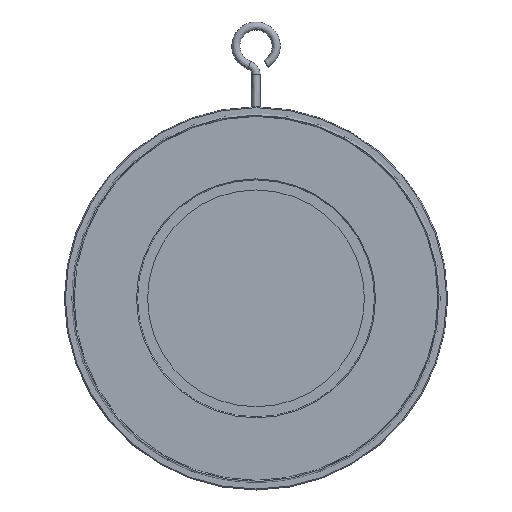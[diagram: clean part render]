
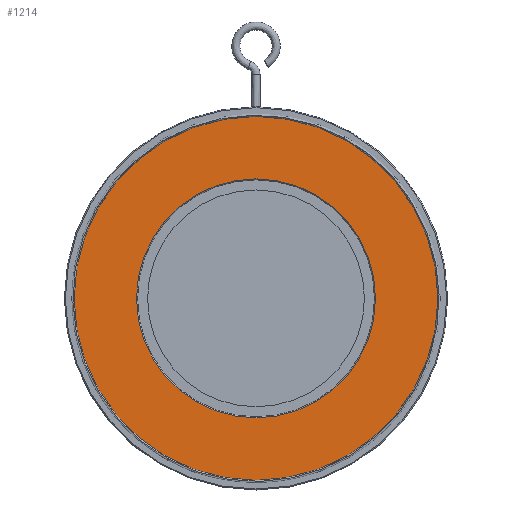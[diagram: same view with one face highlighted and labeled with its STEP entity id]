
A CAD part, left-side view. The second image highlights one B-rep face of the part: STEP entity #1214.
In plain terms, the highlighted planar face has unit normal (-1, 0, 0).
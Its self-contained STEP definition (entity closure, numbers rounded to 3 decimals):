
#80 = FACE_BOUND ( 'NONE', #9049, .T. ) ;
#86 = DIRECTION ( 'NONE',  ( 0., 0., 1. ) ) ;
#248 = CARTESIAN_POINT ( 'NONE',  ( -19., 0., 0. ) ) ;
#347 = DIRECTION ( 'NONE',  ( 0., 0., 1. ) ) ;
#720 = DIRECTION ( 'NONE',  ( 1., 0., 0. ) ) ;
#801 = VERTEX_POINT ( 'NONE', #10663 ) ;
#826 = CIRCLE ( 'NONE', #9298, 180.353 ) ;
#841 = CIRCLE ( 'NONE', #6164, 180.353 ) ;
#865 = CARTESIAN_POINT ( 'NONE',  ( -19., 0., -180.353 ) ) ;
#1116 = ORIENTED_EDGE ( 'NONE', *, *, #10377, .F. ) ;
#1214 = ADVANCED_FACE ( 'NONE', ( #80, #10686 ), #4341, .F. ) ;
#1418 = EDGE_CURVE ( 'NONE', #10479, #10408, #7913, .T. ) ;
#2856 = EDGE_CURVE ( 'NONE', #10408, #10479, #8030, .T. ) ;
#3586 = DIRECTION ( 'NONE',  ( 1., 0., 0. ) ) ;
#4087 = AXIS2_PLACEMENT_3D ( 'NONE', #6779, #6251, #10525 ) ;
#4191 = CARTESIAN_POINT ( 'NONE',  ( -19., 0., 0. ) ) ;
#4341 = PLANE ( 'NONE',  #4087 ) ;
#4839 = EDGE_LOOP ( 'NONE', ( #1116, #7769 ) ) ;
#5029 = DIRECTION ( 'NONE',  ( 0., 0., 1. ) ) ;
#5104 = CARTESIAN_POINT ( 'NONE',  ( -19., 0., 118.5 ) ) ;
#5106 = DIRECTION ( 'NONE',  ( 1., 0., 0. ) ) ;
#5138 = ORIENTED_EDGE ( 'NONE', *, *, #1418, .T. ) ;
#6164 = AXIS2_PLACEMENT_3D ( 'NONE', #10128, #5106, #86 ) ;
#6251 = DIRECTION ( 'NONE',  ( 1., 0., 0. ) ) ;
#6377 = CARTESIAN_POINT ( 'NONE',  ( -19., 0., 0. ) ) ;
#6655 = ORIENTED_EDGE ( 'NONE', *, *, #2856, .T. ) ;
#6693 = CARTESIAN_POINT ( 'NONE',  ( -19., 0., -118.5 ) ) ;
#6779 = CARTESIAN_POINT ( 'NONE',  ( -19., 0., 0. ) ) ;
#7154 = AXIS2_PLACEMENT_3D ( 'NONE', #6377, #720, #347 ) ;
#7650 = VERTEX_POINT ( 'NONE', #865 ) ;
#7769 = ORIENTED_EDGE ( 'NONE', *, *, #9338, .F. ) ;
#7913 = CIRCLE ( 'NONE', #7992, 118.5 ) ;
#7992 = AXIS2_PLACEMENT_3D ( 'NONE', #248, #3586, #8684 ) ;
#8030 = CIRCLE ( 'NONE', #7154, 118.5 ) ;
#8684 = DIRECTION ( 'NONE',  ( 0., 0., 1. ) ) ;
#9049 = EDGE_LOOP ( 'NONE', ( #5138, #6655 ) ) ;
#9298 = AXIS2_PLACEMENT_3D ( 'NONE', #4191, #10051, #5029 ) ;
#9338 = EDGE_CURVE ( 'NONE', #7650, #801, #841, .T. ) ;
#10051 = DIRECTION ( 'NONE',  ( 1., 0., 0. ) ) ;
#10128 = CARTESIAN_POINT ( 'NONE',  ( -19., 0., 0. ) ) ;
#10377 = EDGE_CURVE ( 'NONE', #801, #7650, #826, .T. ) ;
#10408 = VERTEX_POINT ( 'NONE', #6693 ) ;
#10479 = VERTEX_POINT ( 'NONE', #5104 ) ;
#10525 = DIRECTION ( 'NONE',  ( 0., 0., -1. ) ) ;
#10663 = CARTESIAN_POINT ( 'NONE',  ( -19., 0., 180.353 ) ) ;
#10686 = FACE_OUTER_BOUND ( 'NONE', #4839, .T. ) ;
